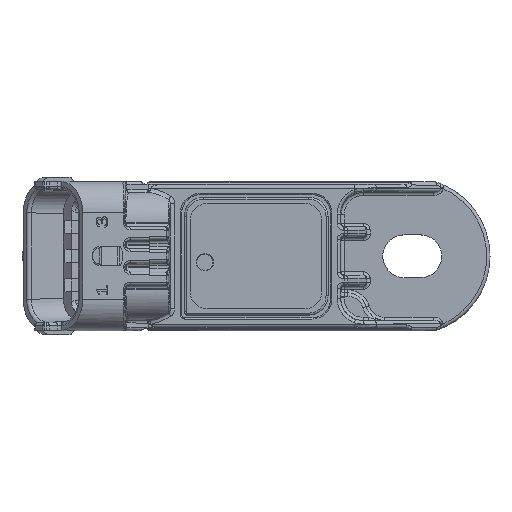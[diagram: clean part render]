
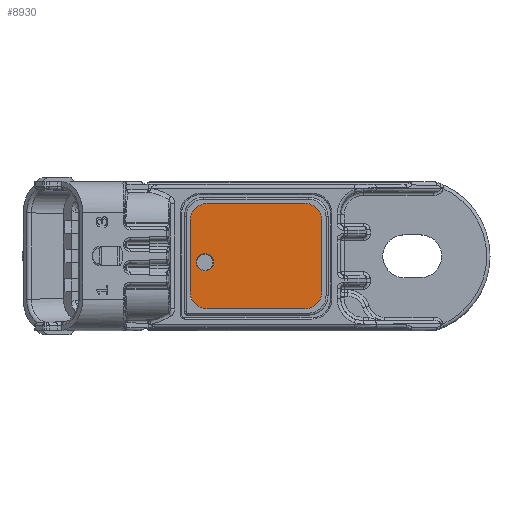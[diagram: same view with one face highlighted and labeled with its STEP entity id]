
A CAD part, top view. The second image highlights one B-rep face of the part: STEP entity #8930.
In plain terms, the highlighted planar face has unit normal (0, 0, 1).
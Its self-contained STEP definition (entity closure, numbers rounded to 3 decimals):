
#1800=PLANE('',#26432);
#5195=LINE('',#45924,#7064);
#5198=LINE('',#45932,#7067);
#5201=LINE('',#45940,#7070);
#5204=LINE('',#45948,#7073);
#7064=VECTOR('',#32860,1.);
#7067=VECTOR('',#32869,1.);
#7070=VECTOR('',#32878,1.);
#7073=VECTOR('',#32887,1.);
#8930=ADVANCED_FACE('',(#9080,#9081),#1800,.F.);
#9080=FACE_BOUND('',#10611,.T.);
#9081=FACE_BOUND('',#10612,.T.);
#10611=EDGE_LOOP('',(#17601,#17602,#17603,#17604,#17605,#17606,#17607,#17608));
#10612=EDGE_LOOP('',(#17609));
#17601=ORIENTED_EDGE('',*,*,#23225,.F.);
#17602=ORIENTED_EDGE('',*,*,#23223,.F.);
#17603=ORIENTED_EDGE('',*,*,#23221,.F.);
#17604=ORIENTED_EDGE('',*,*,#23219,.F.);
#17605=ORIENTED_EDGE('',*,*,#23217,.F.);
#17606=ORIENTED_EDGE('',*,*,#23215,.F.);
#17607=ORIENTED_EDGE('',*,*,#23213,.F.);
#17608=ORIENTED_EDGE('',*,*,#23211,.F.);
#17609=ORIENTED_EDGE('',*,*,#23226,.F.);
#19718=VERTEX_POINT('',#45923);
#19719=VERTEX_POINT('',#45925);
#19720=VERTEX_POINT('',#45929);
#19721=VERTEX_POINT('',#45933);
#19722=VERTEX_POINT('',#45937);
#19723=VERTEX_POINT('',#45941);
#19724=VERTEX_POINT('',#45945);
#19725=VERTEX_POINT('',#45949);
#19726=VERTEX_POINT('',#45955);
#23211=EDGE_CURVE('',#19718,#19719,#5195,.T.);
#23213=EDGE_CURVE('',#19719,#19720,#24130,.T.);
#23215=EDGE_CURVE('',#19720,#19721,#5198,.T.);
#23217=EDGE_CURVE('',#19721,#19722,#24131,.T.);
#23219=EDGE_CURVE('',#19722,#19723,#5201,.T.);
#23221=EDGE_CURVE('',#19723,#19724,#24132,.T.);
#23223=EDGE_CURVE('',#19724,#19725,#5204,.T.);
#23225=EDGE_CURVE('',#19725,#19718,#24133,.T.);
#23226=EDGE_CURVE('',#19726,#19726,#24134,.T.);
#24130=CIRCLE('',#26420,2.65);
#24131=CIRCLE('',#26423,2.65);
#24132=CIRCLE('',#26426,2.65);
#24133=CIRCLE('',#26429,2.65);
#24134=CIRCLE('',#26431,1.339);
#26420=AXIS2_PLACEMENT_3D('',#45928,#32864,#32865);
#26423=AXIS2_PLACEMENT_3D('',#45936,#32873,#32874);
#26426=AXIS2_PLACEMENT_3D('',#45944,#32882,#32883);
#26429=AXIS2_PLACEMENT_3D('',#45952,#32891,#32892);
#26431=AXIS2_PLACEMENT_3D('',#45954,#32895,#32896);
#26432=AXIS2_PLACEMENT_3D('',#45956,#32897,#32898);
#32860=DIRECTION('',(-1.,0.,0.));
#32864=DIRECTION('',(0.,0.,-1.));
#32865=DIRECTION('',(-1.,0.,0.));
#32869=DIRECTION('',(0.,1.,0.));
#32873=DIRECTION('',(0.,0.,-1.));
#32874=DIRECTION('',(-1.,0.,0.));
#32878=DIRECTION('',(1.,0.,0.));
#32882=DIRECTION('',(0.,0.,-1.));
#32883=DIRECTION('',(-1.,0.,0.));
#32887=DIRECTION('',(0.,-1.,0.));
#32891=DIRECTION('',(0.,0.,-1.));
#32892=DIRECTION('',(-1.,0.,0.));
#32895=DIRECTION('',(0.,0.,1.));
#32896=DIRECTION('',(0.,1.,0.));
#32897=DIRECTION('',(0.,0.,-1.));
#32898=DIRECTION('',(0.,1.,0.));
#45923=CARTESIAN_POINT('',(2.8,-8.15,14.4));
#45924=CARTESIAN_POINT('',(2.8,-8.15,14.4));
#45925=CARTESIAN_POINT('',(-12.2,-8.15,14.4));
#45928=CARTESIAN_POINT('',(-12.2,-5.5,14.4));
#45929=CARTESIAN_POINT('',(-14.85,-5.5,14.4));
#45932=CARTESIAN_POINT('',(-14.85,-5.5,14.4));
#45933=CARTESIAN_POINT('',(-14.85,5.5,14.4));
#45936=CARTESIAN_POINT('',(-12.2,5.5,14.4));
#45937=CARTESIAN_POINT('',(-12.2,8.15,14.4));
#45940=CARTESIAN_POINT('',(-12.2,8.15,14.4));
#45941=CARTESIAN_POINT('',(2.8,8.15,14.4));
#45944=CARTESIAN_POINT('',(2.8,5.5,14.4));
#45945=CARTESIAN_POINT('',(5.45,5.5,14.4));
#45948=CARTESIAN_POINT('',(5.45,5.5,14.4));
#45949=CARTESIAN_POINT('',(5.45,-5.5,14.4));
#45952=CARTESIAN_POINT('',(2.8,-5.5,14.4));
#45954=CARTESIAN_POINT('',(-12.6,-0.95,14.4));
#45955=CARTESIAN_POINT('',(-12.6,0.389,14.4));
#45956=CARTESIAN_POINT('',(2.8,-5.5,14.4));
